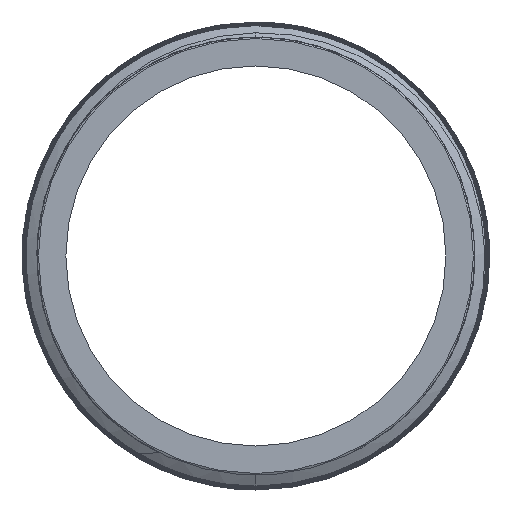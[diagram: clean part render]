
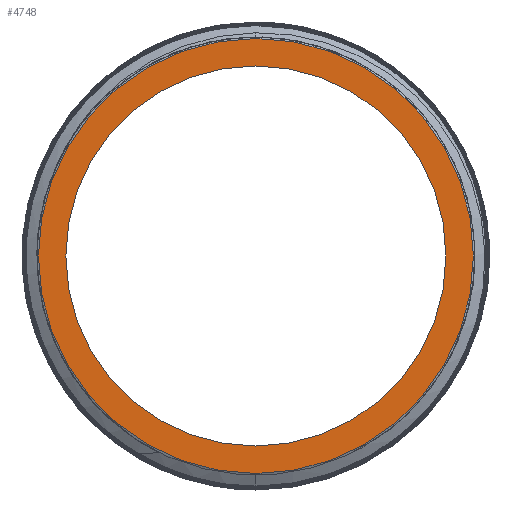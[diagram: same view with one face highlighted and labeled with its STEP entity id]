
A CAD part, left-side view. The second image highlights one B-rep face of the part: STEP entity #4748.
In plain terms, the highlighted planar face has unit normal (-1, 0, 0).
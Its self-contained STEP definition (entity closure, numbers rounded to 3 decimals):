
#91 = PLANE ( 'NONE',  #3420 ) ;
#185 = ORIENTED_EDGE ( 'NONE', *, *, #9019, .F. ) ;
#679 = DIRECTION ( 'NONE',  ( 0., 0., 1. ) ) ;
#988 = AXIS2_PLACEMENT_3D ( 'NONE', #7352, #8015, #6710 ) ;
#1100 = CIRCLE ( 'NONE', #1844, 8.65 ) ;
#1359 = FACE_OUTER_BOUND ( 'NONE', #6468, .T. ) ;
#1713 = CARTESIAN_POINT ( 'NONE',  ( -250., 0., 0. ) ) ;
#1844 = AXIS2_PLACEMENT_3D ( 'NONE', #5037, #7214, #679 ) ;
#2203 = DIRECTION ( 'NONE',  ( 0., 0., -1. ) ) ;
#2343 = EDGE_LOOP ( 'NONE', ( #9224, #185 ) ) ;
#2462 = VERTEX_POINT ( 'NONE', #3219 ) ;
#2773 = CARTESIAN_POINT ( 'NONE',  ( -250., 0., 0. ) ) ;
#3037 = CARTESIAN_POINT ( 'NONE',  ( -250., 0., -8.65 ) ) ;
#3043 = AXIS2_PLACEMENT_3D ( 'NONE', #2773, #3621, #4969 ) ;
#3219 = CARTESIAN_POINT ( 'NONE',  ( -250., 0., 9.9 ) ) ;
#3262 = CIRCLE ( 'NONE', #988, 9.9 ) ;
#3420 = AXIS2_PLACEMENT_3D ( 'NONE', #5615, #6449, #2203 ) ;
#3621 = DIRECTION ( 'NONE',  ( -1., 0., 0. ) ) ;
#4748 = ADVANCED_FACE ( 'NONE', ( #8460, #1359 ), #91, .F. ) ;
#4946 = CARTESIAN_POINT ( 'NONE',  ( -250., 0., 8.65 ) ) ;
#4969 = DIRECTION ( 'NONE',  ( 0., 0., 1. ) ) ;
#5037 = CARTESIAN_POINT ( 'NONE',  ( -250., 0., 0. ) ) ;
#5051 = VERTEX_POINT ( 'NONE', #3037 ) ;
#5317 = DIRECTION ( 'NONE',  ( 0., 0., 1. ) ) ;
#5615 = CARTESIAN_POINT ( 'NONE',  ( -250., 8.65, 0. ) ) ;
#5719 = ORIENTED_EDGE ( 'NONE', *, *, #8446, .T. ) ;
#6030 = VERTEX_POINT ( 'NONE', #4946 ) ;
#6449 = DIRECTION ( 'NONE',  ( 1., 0., 0. ) ) ;
#6450 = CIRCLE ( 'NONE', #3043, 8.65 ) ;
#6468 = EDGE_LOOP ( 'NONE', ( #5719, #8243 ) ) ;
#6572 = DIRECTION ( 'NONE',  ( -1., 0., 0. ) ) ;
#6710 = DIRECTION ( 'NONE',  ( 0., 0., 1. ) ) ;
#6809 = EDGE_CURVE ( 'NONE', #2462, #7659, #3262, .T. ) ;
#6896 = CIRCLE ( 'NONE', #9137, 9.9 ) ;
#7214 = DIRECTION ( 'NONE',  ( -1., 0., 0. ) ) ;
#7352 = CARTESIAN_POINT ( 'NONE',  ( -250., 0., 0. ) ) ;
#7659 = VERTEX_POINT ( 'NONE', #8721 ) ;
#8015 = DIRECTION ( 'NONE',  ( -1., 0., 0. ) ) ;
#8082 = EDGE_CURVE ( 'NONE', #6030, #5051, #1100, .T. ) ;
#8243 = ORIENTED_EDGE ( 'NONE', *, *, #6809, .T. ) ;
#8446 = EDGE_CURVE ( 'NONE', #7659, #2462, #6896, .T. ) ;
#8460 = FACE_BOUND ( 'NONE', #2343, .T. ) ;
#8721 = CARTESIAN_POINT ( 'NONE',  ( -250., 0., -9.9 ) ) ;
#9019 = EDGE_CURVE ( 'NONE', #5051, #6030, #6450, .T. ) ;
#9137 = AXIS2_PLACEMENT_3D ( 'NONE', #1713, #6572, #5317 ) ;
#9224 = ORIENTED_EDGE ( 'NONE', *, *, #8082, .F. ) ;
